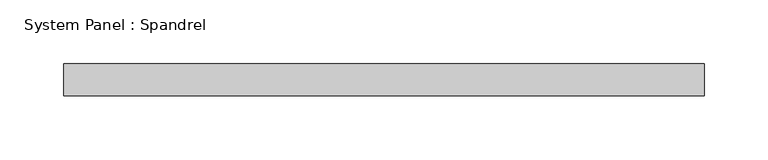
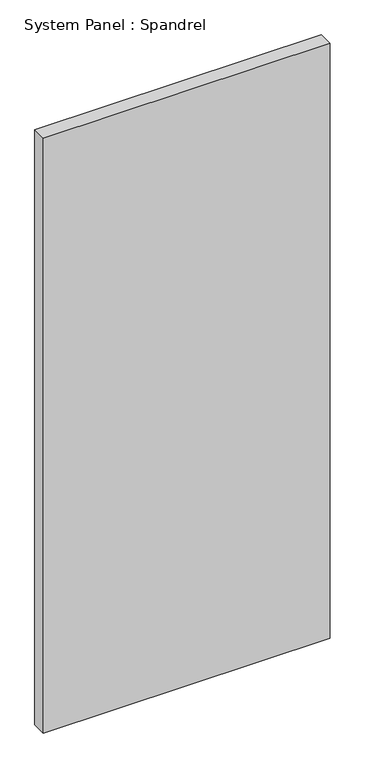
"""IFC4 building model written with IfcOpenShell, lengths in millimetres: plate geometry, System Panel : Spandrel."""

from ifc_helpers import new_model, si_unit, origin, origin_with_axes, place, context, project, spatial, polyline, outline, extrude, source, transform, mapped, element, save


def system_panel_spandrel_b2908f05(model_context):
    return source(origin(), model_context, "Body", "SweptSolid", [
        extrude(outline(polyline([(250.9999998, -25.0), (-250.9999998, -25.0), (-250.9999998, 0.0), (250.9999998, 0.0), (250.9999998, -25.0)])), origin_with_axes(), (0.0, 0.0, 1.0), 1100.0),
    ])


if __name__ == "__main__":
    model = new_model("IFC4")
    model_context = context("Model", 3, world=origin())
    ifc_project = project(units=[si_unit("LENGTHUNIT", "METRE", prefix="MILLI")], contexts=[model_context])
    site = spatial("IfcSite", under=ifc_project)
    building = spatial("IfcBuilding", under=site)
    placement = place(None, origin())
    system_panel_spandrel_shape = system_panel_spandrel_b2908f05(model_context)
    element("IfcPlate", 1, ObjectType="System Panel : Spandrel", at=placement, inside=building, context=model_context, shape_type="MappedRepresentation", body=[
        mapped(system_panel_spandrel_shape, transform((0.0, 0.0, 0.0), x_axis=(1.0, 0.0, 0.0), y_axis=(0.0, 1.0, 0.0), z_axis=(0.0, 0.0, 1.0))),
    ])
    save(model, "model.ifc")
